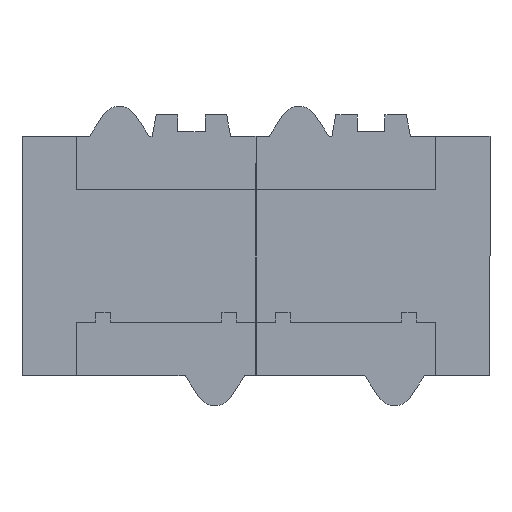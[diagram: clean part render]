
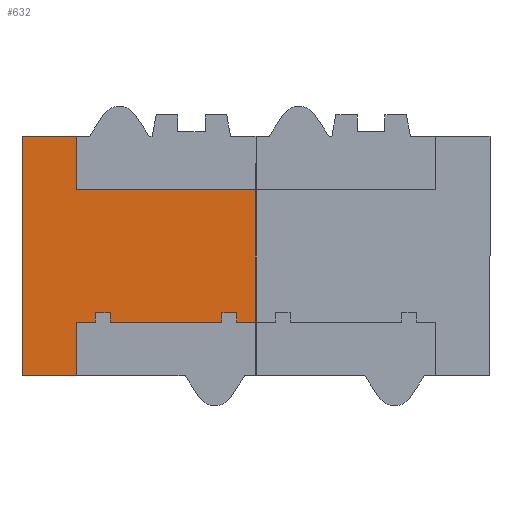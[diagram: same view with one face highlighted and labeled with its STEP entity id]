
A CAD part, front view. The second image highlights one B-rep face of the part: STEP entity #632.
In plain terms, the highlighted planar face has unit normal (0, -1, 0).
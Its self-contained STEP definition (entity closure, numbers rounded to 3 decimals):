
#72 = ORIENTED_EDGE ( 'NONE', *, *, #12867, .T. ) ;
#353 = ORIENTED_EDGE ( 'NONE', *, *, #16430, .T. ) ;
#632 = ADVANCED_FACE ( 'NONE', ( #3133 ), #3015, .F. ) ;
#991 = VECTOR ( 'NONE', #3141, 1000. ) ;
#1417 = EDGE_CURVE ( 'NONE', #16001, #7240, #6121, .T. ) ;
#1503 = CARTESIAN_POINT ( 'NONE',  ( 0., 4., 17.65 ) ) ;
#1507 = LINE ( 'NONE', #1503, #991 ) ;
#1969 = CARTESIAN_POINT ( 'NONE',  ( -38.5, 4., -32. ) ) ;
#3015 = PLANE ( 'NONE',  #12752 ) ;
#3133 = FACE_OUTER_BOUND ( 'NONE', #11734, .T. ) ;
#3141 = DIRECTION ( 'NONE',  ( 1., 0., 0. ) ) ;
#3224 = EDGE_CURVE ( 'NONE', #14421, #6864, #17507, .T. ) ;
#3676 = CARTESIAN_POINT ( 'NONE',  ( -24., 4., 32. ) ) ;
#3906 = DIRECTION ( 'NONE',  ( 0., 0., -1. ) ) ;
#3922 = VERTEX_POINT ( 'NONE', #15709 ) ;
#4128 = DIRECTION ( 'NONE',  ( 1., 0., 0. ) ) ;
#4625 = DIRECTION ( 'NONE',  ( 0., 0., 1. ) ) ;
#4697 = DIRECTION ( 'NONE',  ( -1., 0., 0. ) ) ;
#4965 = CARTESIAN_POINT ( 'NONE',  ( -38.5, 4., 32. ) ) ;
#5775 = VECTOR ( 'NONE', #13784, 1000. ) ;
#5867 = ORIENTED_EDGE ( 'NONE', *, *, #15343, .F. ) ;
#6121 = LINE ( 'NONE', #7782, #14702 ) ;
#6180 = CARTESIAN_POINT ( 'NONE',  ( 0., 4., 0. ) ) ;
#6276 = LINE ( 'NONE', #15351, #5775 ) ;
#6733 = ORIENTED_EDGE ( 'NONE', *, *, #8100, .F. ) ;
#6864 = VERTEX_POINT ( 'NONE', #6965 ) ;
#6965 = CARTESIAN_POINT ( 'NONE',  ( -24., 4., -17.65 ) ) ;
#6989 = LINE ( 'NONE', #8937, #18870 ) ;
#7240 = VERTEX_POINT ( 'NONE', #4965 ) ;
#7325 = VERTEX_POINT ( 'NONE', #19768 ) ;
#7782 = CARTESIAN_POINT ( 'NONE',  ( -38.5, 4., -32. ) ) ;
#8089 = DIRECTION ( 'NONE',  ( 0., 0., 1. ) ) ;
#8100 = EDGE_CURVE ( 'NONE', #9007, #14421, #8345, .T. ) ;
#8289 = EDGE_CURVE ( 'NONE', #3922, #9007, #1507, .T. ) ;
#8345 = LINE ( 'NONE', #11949, #16436 ) ;
#8477 = ORIENTED_EDGE ( 'NONE', *, *, #8289, .F. ) ;
#8937 = CARTESIAN_POINT ( 'NONE',  ( -38.5, 4., 32. ) ) ;
#9007 = VERTEX_POINT ( 'NONE', #10244 ) ;
#10244 = CARTESIAN_POINT ( 'NONE',  ( 24., 4., 17.65 ) ) ;
#10659 = CARTESIAN_POINT ( 'NONE',  ( 24., 4., -17.65 ) ) ;
#11734 = EDGE_LOOP ( 'NONE', ( #13235, #6733, #8477, #11991, #5867, #20463, #353, #72 ) ) ;
#11949 = CARTESIAN_POINT ( 'NONE',  ( 24., 4., 0. ) ) ;
#11991 = ORIENTED_EDGE ( 'NONE', *, *, #20869, .T. ) ;
#12315 = VERTEX_POINT ( 'NONE', #3676 ) ;
#12752 = AXIS2_PLACEMENT_3D ( 'NONE', #6180, #14286, #4625 ) ;
#12867 = EDGE_CURVE ( 'NONE', #7325, #6864, #6276, .T. ) ;
#13235 = ORIENTED_EDGE ( 'NONE', *, *, #3224, .F. ) ;
#13242 = DIRECTION ( 'NONE',  ( 1., 0., 0. ) ) ;
#13784 = DIRECTION ( 'NONE',  ( 0., 0., 1. ) ) ;
#14286 = DIRECTION ( 'NONE',  ( 0., 1., 0. ) ) ;
#14354 = CARTESIAN_POINT ( 'NONE',  ( 0., 4., -17.65 ) ) ;
#14421 = VERTEX_POINT ( 'NONE', #10659 ) ;
#14702 = VECTOR ( 'NONE', #17434, 1000. ) ;
#15343 = EDGE_CURVE ( 'NONE', #7240, #12315, #6989, .T. ) ;
#15351 = CARTESIAN_POINT ( 'NONE',  ( -24., 4., -32. ) ) ;
#15709 = CARTESIAN_POINT ( 'NONE',  ( -24., 4., 17.65 ) ) ;
#15766 = LINE ( 'NONE', #1969, #16280 ) ;
#15924 = CARTESIAN_POINT ( 'NONE',  ( -24., 4., -32. ) ) ;
#16001 = VERTEX_POINT ( 'NONE', #20311 ) ;
#16280 = VECTOR ( 'NONE', #13242, 1000. ) ;
#16284 = VECTOR ( 'NONE', #8089, 1000. ) ;
#16430 = EDGE_CURVE ( 'NONE', #16001, #7325, #15766, .T. ) ;
#16436 = VECTOR ( 'NONE', #3906, 1000. ) ;
#17015 = VECTOR ( 'NONE', #4697, 1000. ) ;
#17434 = DIRECTION ( 'NONE',  ( 0., 0., 1. ) ) ;
#17507 = LINE ( 'NONE', #14354, #17015 ) ;
#18870 = VECTOR ( 'NONE', #4128, 1000. ) ;
#19768 = CARTESIAN_POINT ( 'NONE',  ( -24., 4., -32. ) ) ;
#20120 = LINE ( 'NONE', #15924, #16284 ) ;
#20311 = CARTESIAN_POINT ( 'NONE',  ( -38.5, 4., -32. ) ) ;
#20463 = ORIENTED_EDGE ( 'NONE', *, *, #1417, .F. ) ;
#20869 = EDGE_CURVE ( 'NONE', #3922, #12315, #20120, .T. ) ;
